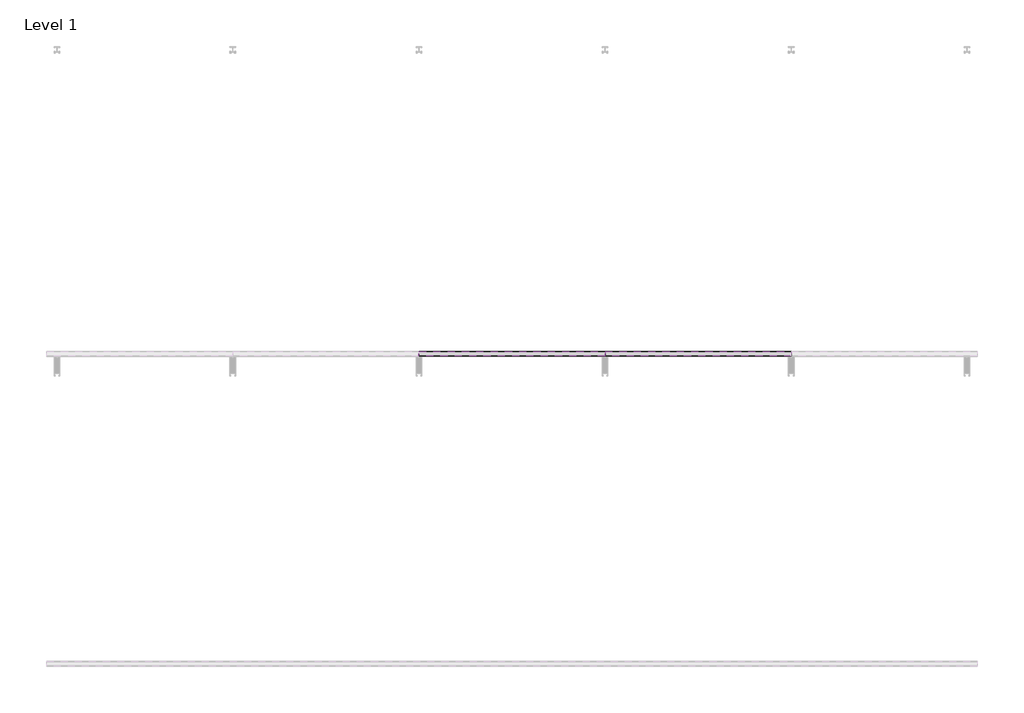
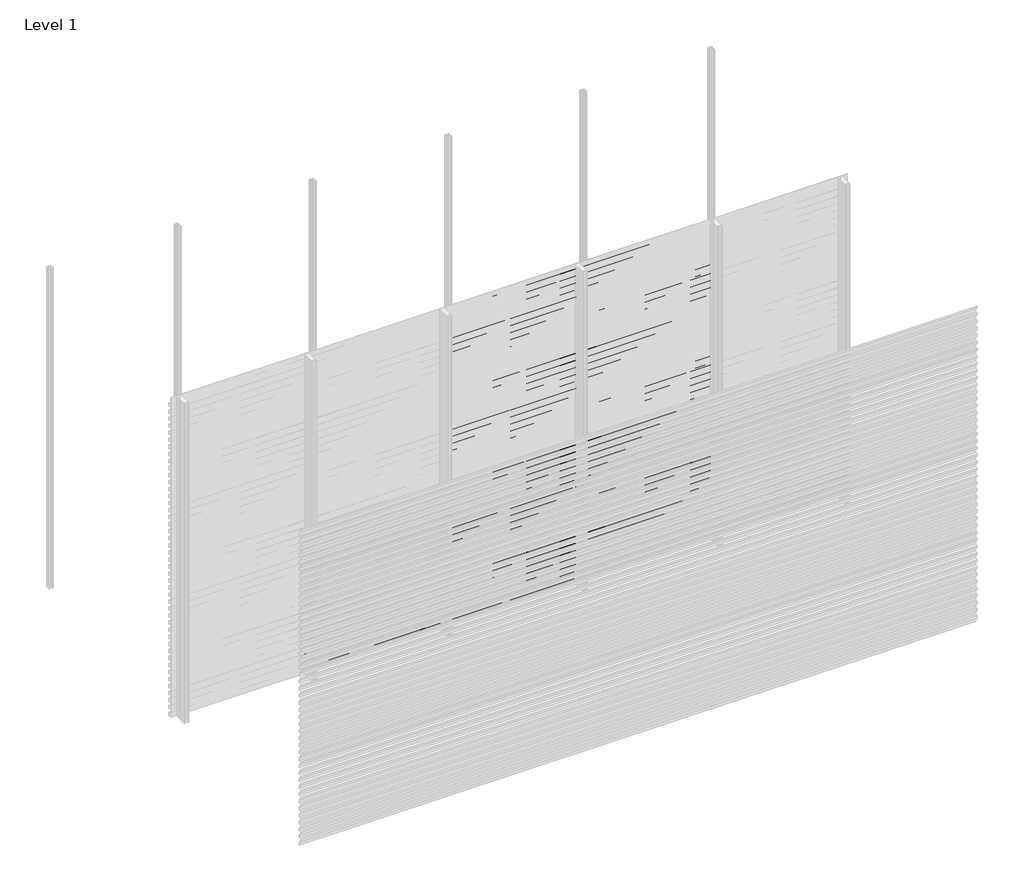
# One storey, part 8 of 33: 88 proxies.
"""IFC4 building model written with IfcOpenShell, lengths in millimetres."""

import ifcopenshell
import ifcopenshell.guid

model = None  # the IFC model being written
_history = None  # IfcOwnerHistory: only IFC2X3 demands one
_inside = {}  # id of a spatial element -> (the spatial element, [elements in it])
_under = {}  # id of a project, library or spatial element -> (it, [spatial elements below it])
_declared = {}  # id of a project -> (the project, [libraries it declares])
_typed = {}  # id of a type object -> (the type object, [elements of that type])
_made_of = {}  # id of a material, layer set ... -> (it, [elements and type objects made of it])


def new_model(schema):
    """Start an empty IFC model of exactly this schema.

    Asked for "IFC4X3", IfcOpenShell would pick the latest addendum, in which some entities
    have other attributes; the version numbers below select the first issue.
    IFC2X3 requires an IfcOwnerHistory on every rooted entity: one is made here for all.
    """
    global model, _history
    if schema == "IFC4X3":
        model = ifcopenshell.file(schema_version=(4, 3, 0, 0))
    else:
        model = ifcopenshell.file(schema=schema)
    _inside.clear()
    _under.clear()
    _declared.clear()
    _typed.clear()
    _made_of.clear()
    _history = None
    if model.schema == "IFC2X3":
        org = make("IfcOrganization", Name="unknown")
        user = make(
            "IfcPersonAndOrganization",
            ThePerson=make("IfcPerson", FamilyName="unknown"),
            TheOrganization=org,
        )
        app = make(
            "IfcApplication",
            ApplicationDeveloper=org,
            Version="unknown",
            ApplicationFullName="unknown",
            ApplicationIdentifier="unknown",
        )
        _history = make(
            "IfcOwnerHistory",
            OwningUser=user,
            OwningApplication=app,
            ChangeAction="ADDED",
            CreationDate=0,
        )
    return model


def make(cls, **values):
    """One entity of the class cls with the attributes given. An attribute that is None is left unset."""
    return model.create_entity(
        cls, **{name: value for name, value in values.items() if value is not None}
    )


def rooted(cls, **values):
    """An entity with a GlobalId (a new one), such as an element, a storey or a relation."""
    return make(cls, GlobalId=ifcopenshell.guid.new(), OwnerHistory=_history, **values)


def si_unit(unit_type, name, prefix=None):
    """IfcSIUnit, for example si_unit("LENGTHUNIT", "METRE", prefix="MILLI")."""
    return make("IfcSIUnit", UnitType=unit_type, Prefix=prefix, Name=name)


def assignment(units):
    """IfcUnitAssignment: the units of a project."""
    return None if units is None else make("IfcUnitAssignment", Units=units)


def point(xyz):
    """IfcCartesianPoint."""
    return None if xyz is None else make("IfcCartesianPoint", Coordinates=xyz)


def direction(xyz):
    """IfcDirection."""
    return None if xyz is None else make("IfcDirection", DirectionRatios=xyz)


def frame(location, z_axis=None, x_axis=None):
    """IfcAxis2Placement3D, a coordinate frame: its origin and axes. An axis left out is left unset."""
    return make(
        "IfcAxis2Placement3D",
        Location=point(location),
        Axis=direction(z_axis),
        RefDirection=direction(x_axis),
    )


def origin():
    """The frame at (0, 0, 0) with its axes left unset."""
    return frame((0.0, 0.0, 0.0))


def place(relative_to, where):
    """IfcLocalPlacement: puts the frame where relative to a parent placement (None: the world)."""
    return make(
        "IfcLocalPlacement", PlacementRelTo=relative_to, RelativePlacement=where
    )


def context(
    kind, dimensions, precision=None, world=None, true_north=None, identifier=None
):
    """IfcGeometricRepresentationContext, for example the 3D "Model" context."""
    return make(
        "IfcGeometricRepresentationContext",
        ContextIdentifier=identifier,
        ContextType=kind,
        CoordinateSpaceDimension=dimensions,
        Precision=precision,
        WorldCoordinateSystem=world,
        TrueNorth=true_north,
    )


def project(units=None, contexts=None):
    """IfcProject with its units and contexts."""
    return rooted(
        "IfcProject",
        Name="project",
        RepresentationContexts=contexts,
        UnitsInContext=assignment(units),
    )


def spatial(cls, under=None, at=None, **own):
    """A site, building, storey or space (cls), placed at a placement, below another one or the project."""
    s = rooted(cls, ObjectPlacement=at, **own)
    if under is not None:
        _under.setdefault(under.id(), (under, []))[1].append(s)
    return s


def polyline(points):
    """IfcPolyline through the points."""
    return make("IfcPolyline", Points=[point(p) for p in points])


def outline(outer, holes=None, kind="AREA"):
    """IfcArbitraryClosedProfileDef: a profile drawn as a closed curve; with holes, ...WithVoids."""
    if holes is None:
        return make("IfcArbitraryClosedProfileDef", ProfileType=kind, OuterCurve=outer)
    return make(
        "IfcArbitraryProfileDefWithVoids",
        ProfileType=kind,
        OuterCurve=outer,
        InnerCurves=holes,
    )


def extrude(swept, where, along, depth):
    """IfcExtrudedAreaSolid: the profile swept, set in the frame where, extruded along a direction by depth."""
    return make(
        "IfcExtrudedAreaSolid",
        SweptArea=swept,
        Position=where,
        ExtrudedDirection=direction(along),
        Depth=depth,
    )


def shape(context_of_items, identifier, shape_type, items):
    """IfcShapeRepresentation: the items that make up one representation, for example the "Body"."""
    return make(
        "IfcShapeRepresentation",
        ContextOfItems=context_of_items,
        RepresentationIdentifier=identifier,
        RepresentationType=shape_type,
        Items=items,
    )


def made_of(thing, what):
    """Note that an element or type object is made of a material, layer set ...; save() writes the relation."""
    if what is not None:
        _made_of.setdefault(what.id(), (what, []))[1].append(thing)
    return thing


def element(
    cls,
    number,
    at=None,
    inside=None,
    cuts=None,
    type_object=None,
    material=None,
    context=None,
    identifier="Body",
    shape_type=None,
    held_by="IfcProductDefinitionShape",
    body=None,
    shapes=None,
    **own,
):
    """One element of the class cls, such as IfcWall. Its Tag is "e" and its number.

    at: its placement. inside: the storey or other place that contains it. cuts: it is an
    opening in that element (IfcRelVoidsElement). A single representation is given by context,
    identifier, shape_type and body (its items); several are given by shapes. held_by: the class
    of the entity that holds the representations. save() writes the other relations.
    """
    e = rooted(cls, Tag="e%d" % number, ObjectPlacement=at, **own)
    if body is not None:
        shapes = [shape(context, identifier, shape_type, body)]
    if shapes is not None:
        e.Representation = make(held_by, Representations=shapes)
    if inside is not None:
        _inside.setdefault(inside.id(), (inside, []))[1].append(e)
    if cuts is not None:
        rooted(
            "IfcRelVoidsElement", RelatingBuildingElement=cuts, RelatedOpeningElement=e
        )
    if type_object is not None:
        _typed.setdefault(type_object.id(), (type_object, []))[1].append(e)
    return made_of(e, material)


def aggregate(whole, parts):
    """IfcRelAggregates: a whole, such as a stair, and the parts it consists of."""
    return rooted("IfcRelAggregates", RelatingObject=whole, RelatedObjects=parts)


def save(model, path):
    """Write the relations noted so far, then the file.

    IfcRelAggregates (storeys below a building ...), IfcRelContainedInSpatialStructure (elements
    in a storey), IfcRelDefinesByType, IfcRelAssociatesMaterial and IfcRelDeclares: one each for
    every whole, place, type object, material and project.
    """
    for whole, parts in _under.values():
        aggregate(whole, parts)
    for where, things in _inside.values():
        rooted(
            "IfcRelContainedInSpatialStructure",
            RelatedElements=things,
            RelatingStructure=where,
        )
    for kind, things in _typed.values():
        rooted("IfcRelDefinesByType", RelatedObjects=things, RelatingType=kind)
    for what, things in _made_of.values():
        rooted("IfcRelAssociatesMaterial", RelatedObjects=things, RelatingMaterial=what)
    for by, libraries in _declared.values():
        rooted("IfcRelDeclares", RelatingContext=by, RelatedDefinitions=libraries)
    model.write(path)


model = new_model("IFC4")

# Units and contexts
model_context = context("Model", 3, world=origin())
ifc_project = project(units=[si_unit("LENGTHUNIT", "METRE", prefix="MILLI")], contexts=[model_context])

# Site, building, storey
site = spatial("IfcSite", under=ifc_project)
building = spatial("IfcBuilding", under=site)
storey = spatial("IfcBuildingStorey", under=building, Name="Level 1", Elevation=0.0)

# Proxies
placement = place(None, origin())
element("IfcBuildingElementProxy", 1, Name="Wall Sweeps", at=placement, inside=storey, context=model_context, shape_type="SweptSolid", body=[
    extrude(outline(polyline([(-47967.0, 158.0), (-47967.0, 125.0), (-47968.25, 125.7216933), (-47968.25, 157.2872415), (-47998.0, 178.0588647), (-47998.0, 198.0), (-47996.75, 198.0), (-47996.75, 178.7716232), (-47967.0, 158.0)])), frame((1200.0, 0.0, 0.0), z_axis=(1.0, 0.0, 0.0), x_axis=(0.0, 1.0, 0.0)), (0.0, 0.0, 1.0), 1200.0),
])
element("IfcBuildingElementProxy", 2, Name="Wall Sweeps", at=placement, inside=storey, context=model_context, shape_type="SweptSolid", body=[
    extrude(outline(polyline([(-47967.0, 92.0), (-47967.0, 59.0), (-47968.25, 59.7216933), (-47968.25, 91.2872415), (-47998.0, 112.0588647), (-47998.0, 132.0), (-47996.75, 132.0), (-47996.75, 112.7716232), (-47967.0, 92.0)])), frame((1200.0, 0.0, 0.0), z_axis=(1.0, 0.0, 0.0), x_axis=(0.0, 1.0, 0.0)), (0.0, 0.0, 1.0), 1200.0),
])
element("IfcBuildingElementProxy", 3, Name="Wall Sweeps", at=placement, inside=storey, context=model_context, shape_type="SweptSolid", body=[
    extrude(outline(polyline([(-47967.0, 26.0), (-47967.0, -7.0), (-47968.25, -6.2783067), (-47968.25, 25.2872415), (-47998.0, 46.0588647), (-47998.0, 66.0), (-47996.75, 66.0), (-47996.75, 46.7716232), (-47967.0, 26.0)])), frame((1200.0, 0.0, 0.0), z_axis=(1.0, 0.0, 0.0), x_axis=(0.0, 1.0, 0.0)), (0.0, 0.0, 1.0), 1200.0),
])
element("IfcBuildingElementProxy", 4, Name="Wall Sweeps", at=placement, inside=storey, context=model_context, shape_type="SweptSolid", body=[
    extrude(outline(polyline([(-47967.0, 2930.0), (-47967.0, 2897.0), (-47968.25, 2897.7216933), (-47968.25, 2929.2872415), (-47998.0, 2950.0588647), (-47998.0, 2970.0), (-47996.75, 2970.0), (-47996.75, 2950.7716232), (-47967.0, 2930.0)])), frame((2400.0, 0.0, 0.0), z_axis=(1.0, 0.0, 0.0), x_axis=(0.0, 1.0, 0.0)), (0.0, 0.0, 1.0), 1200.0),
])
element("IfcBuildingElementProxy", 5, Name="Wall Sweeps", at=placement, inside=storey, context=model_context, shape_type="SweptSolid", body=[
    extrude(outline(polyline([(-47967.0, 2864.0), (-47967.0, 2831.0), (-47968.25, 2831.7216933), (-47968.25, 2863.2872415), (-47998.0, 2884.0588647), (-47998.0, 2904.0), (-47996.75, 2904.0), (-47996.75, 2884.7716232), (-47967.0, 2864.0)])), frame((2400.0, 0.0, 0.0), z_axis=(1.0, 0.0, 0.0), x_axis=(0.0, 1.0, 0.0)), (0.0, 0.0, 1.0), 1200.0),
])
element("IfcBuildingElementProxy", 6, Name="Wall Sweeps", at=placement, inside=storey, context=model_context, shape_type="SweptSolid", body=[
    extrude(outline(polyline([(-47967.0, 2798.0), (-47967.0, 2765.0), (-47968.25, 2765.7216933), (-47968.25, 2797.2872415), (-47998.0, 2818.0588647), (-47998.0, 2838.0), (-47996.75, 2838.0), (-47996.75, 2818.7716232), (-47967.0, 2798.0)])), frame((2400.0, 0.0, 0.0), z_axis=(1.0, 0.0, 0.0), x_axis=(0.0, 1.0, 0.0)), (0.0, 0.0, 1.0), 1200.0),
])
element("IfcBuildingElementProxy", 7, Name="Wall Sweeps", at=placement, inside=storey, context=model_context, shape_type="SweptSolid", body=[
    extrude(outline(polyline([(-47967.0, 2732.0), (-47967.0, 2699.0), (-47968.25, 2699.7216933), (-47968.25, 2731.2872415), (-47998.0, 2752.0588647), (-47998.0, 2772.0), (-47996.75, 2772.0), (-47996.75, 2752.7716232), (-47967.0, 2732.0)])), frame((2400.0, 0.0, 0.0), z_axis=(1.0, 0.0, 0.0), x_axis=(0.0, 1.0, 0.0)), (0.0, 0.0, 1.0), 1200.0),
])
element("IfcBuildingElementProxy", 8, Name="Wall Sweeps", at=placement, inside=storey, context=model_context, shape_type="SweptSolid", body=[
    extrude(outline(polyline([(-47967.0, 2666.0), (-47967.0, 2633.0), (-47968.25, 2633.7216933), (-47968.25, 2665.2872415), (-47998.0, 2686.0588647), (-47998.0, 2706.0), (-47996.75, 2706.0), (-47996.75, 2686.7716232), (-47967.0, 2666.0)])), frame((2400.0, 0.0, 0.0), z_axis=(1.0, 0.0, 0.0), x_axis=(0.0, 1.0, 0.0)), (0.0, 0.0, 1.0), 1200.0),
])
element("IfcBuildingElementProxy", 9, Name="Wall Sweeps", at=placement, inside=storey, context=model_context, shape_type="SweptSolid", body=[
    extrude(outline(polyline([(-47967.0, 2600.0), (-47967.0, 2567.0), (-47968.25, 2567.7216933), (-47968.25, 2599.2872415), (-47998.0, 2620.0588647), (-47998.0, 2640.0), (-47996.75, 2640.0), (-47996.75, 2620.7716232), (-47967.0, 2600.0)])), frame((2400.0, 0.0, 0.0), z_axis=(1.0, 0.0, 0.0), x_axis=(0.0, 1.0, 0.0)), (0.0, 0.0, 1.0), 1200.0),
])
element("IfcBuildingElementProxy", 10, Name="Wall Sweeps", at=placement, inside=storey, context=model_context, shape_type="SweptSolid", body=[
    extrude(outline(polyline([(-47967.0, 2534.0), (-47967.0, 2501.0), (-47968.25, 2501.7216933), (-47968.25, 2533.2872415), (-47998.0, 2554.0588647), (-47998.0, 2574.0), (-47996.75, 2574.0), (-47996.75, 2554.7716232), (-47967.0, 2534.0)])), frame((2400.0, 0.0, 0.0), z_axis=(1.0, 0.0, 0.0), x_axis=(0.0, 1.0, 0.0)), (0.0, 0.0, 1.0), 1200.0),
])
element("IfcBuildingElementProxy", 11, Name="Wall Sweeps", at=placement, inside=storey, context=model_context, shape_type="SweptSolid", body=[
    extrude(outline(polyline([(-47967.0, 2468.0), (-47967.0, 2435.0), (-47968.25, 2435.7216933), (-47968.25, 2467.2872415), (-47998.0, 2488.0588647), (-47998.0, 2508.0), (-47996.75, 2508.0), (-47996.75, 2488.7716232), (-47967.0, 2468.0)])), frame((2400.0, 0.0, 0.0), z_axis=(1.0, 0.0, 0.0), x_axis=(0.0, 1.0, 0.0)), (0.0, 0.0, 1.0), 1200.0),
])
element("IfcBuildingElementProxy", 12, Name="Wall Sweeps", at=placement, inside=storey, context=model_context, shape_type="SweptSolid", body=[
    extrude(outline(polyline([(-47967.0, 2402.0), (-47967.0, 2369.0), (-47968.25, 2369.7216933), (-47968.25, 2401.2872415), (-47998.0, 2422.0588647), (-47998.0, 2442.0), (-47996.75, 2442.0), (-47996.75, 2422.7716232), (-47967.0, 2402.0)])), frame((2400.0, 0.0, 0.0), z_axis=(1.0, 0.0, 0.0), x_axis=(0.0, 1.0, 0.0)), (0.0, 0.0, 1.0), 1200.0),
])
element("IfcBuildingElementProxy", 13, Name="Wall Sweeps", at=placement, inside=storey, context=model_context, shape_type="SweptSolid", body=[
    extrude(outline(polyline([(-47967.0, 2336.0), (-47967.0, 2303.0), (-47968.25, 2303.7216933), (-47968.25, 2335.2872415), (-47998.0, 2356.0588647), (-47998.0, 2376.0), (-47996.75, 2376.0), (-47996.75, 2356.7716232), (-47967.0, 2336.0)])), frame((2400.0, 0.0, 0.0), z_axis=(1.0, 0.0, 0.0), x_axis=(0.0, 1.0, 0.0)), (0.0, 0.0, 1.0), 1200.0),
])
element("IfcBuildingElementProxy", 14, Name="Wall Sweeps", at=placement, inside=storey, context=model_context, shape_type="SweptSolid", body=[
    extrude(outline(polyline([(-47967.0, 2270.0), (-47967.0, 2237.0), (-47968.25, 2237.7216933), (-47968.25, 2269.2872415), (-47998.0, 2290.0588647), (-47998.0, 2310.0), (-47996.75, 2310.0), (-47996.75, 2290.7716232), (-47967.0, 2270.0)])), frame((2400.0, 0.0, 0.0), z_axis=(1.0, 0.0, 0.0), x_axis=(0.0, 1.0, 0.0)), (0.0, 0.0, 1.0), 1200.0),
])
element("IfcBuildingElementProxy", 15, Name="Wall Sweeps", at=placement, inside=storey, context=model_context, shape_type="SweptSolid", body=[
    extrude(outline(polyline([(-47967.0, 2204.0), (-47967.0, 2171.0), (-47968.25, 2171.7216933), (-47968.25, 2203.2872415), (-47998.0, 2224.0588647), (-47998.0, 2244.0), (-47996.75, 2244.0), (-47996.75, 2224.7716232), (-47967.0, 2204.0)])), frame((2400.0, 0.0, 0.0), z_axis=(1.0, 0.0, 0.0), x_axis=(0.0, 1.0, 0.0)), (0.0, 0.0, 1.0), 1200.0),
])
element("IfcBuildingElementProxy", 16, Name="Wall Sweeps", at=placement, inside=storey, context=model_context, shape_type="SweptSolid", body=[
    extrude(outline(polyline([(-47967.0, 2138.0), (-47967.0, 2105.0), (-47968.25, 2105.7216933), (-47968.25, 2137.2872415), (-47998.0, 2158.0588647), (-47998.0, 2178.0), (-47996.75, 2178.0), (-47996.75, 2158.7716232), (-47967.0, 2138.0)])), frame((2400.0, 0.0, 0.0), z_axis=(1.0, 0.0, 0.0), x_axis=(0.0, 1.0, 0.0)), (0.0, 0.0, 1.0), 1200.0),
])
element("IfcBuildingElementProxy", 17, Name="Wall Sweeps", at=placement, inside=storey, context=model_context, shape_type="SweptSolid", body=[
    extrude(outline(polyline([(-47967.0, 2072.0), (-47967.0, 2039.0), (-47968.25, 2039.7216933), (-47968.25, 2071.2872415), (-47998.0, 2092.0588647), (-47998.0, 2112.0), (-47996.75, 2112.0), (-47996.75, 2092.7716232), (-47967.0, 2072.0)])), frame((2400.0, 0.0, 0.0), z_axis=(1.0, 0.0, 0.0), x_axis=(0.0, 1.0, 0.0)), (0.0, 0.0, 1.0), 1200.0),
])
element("IfcBuildingElementProxy", 18, Name="Wall Sweeps", at=placement, inside=storey, context=model_context, shape_type="SweptSolid", body=[
    extrude(outline(polyline([(-47967.0, 2006.0), (-47967.0, 1973.0), (-47968.25, 1973.7216933), (-47968.25, 2005.2872415), (-47998.0, 2026.0588647), (-47998.0, 2046.0), (-47996.75, 2046.0), (-47996.75, 2026.7716232), (-47967.0, 2006.0)])), frame((2400.0, 0.0, 0.0), z_axis=(1.0, 0.0, 0.0), x_axis=(0.0, 1.0, 0.0)), (0.0, 0.0, 1.0), 1200.0),
])
element("IfcBuildingElementProxy", 19, Name="Wall Sweeps", at=placement, inside=storey, context=model_context, shape_type="SweptSolid", body=[
    extrude(outline(polyline([(-47967.0, 1940.0), (-47967.0, 1907.0), (-47968.25, 1907.7216933), (-47968.25, 1939.2872415), (-47998.0, 1960.0588647), (-47998.0, 1980.0), (-47996.75, 1980.0), (-47996.75, 1960.7716232), (-47967.0, 1940.0)])), frame((2400.0, 0.0, 0.0), z_axis=(1.0, 0.0, 0.0), x_axis=(0.0, 1.0, 0.0)), (0.0, 0.0, 1.0), 1200.0),
])
element("IfcBuildingElementProxy", 20, Name="Wall Sweeps", at=placement, inside=storey, context=model_context, shape_type="SweptSolid", body=[
    extrude(outline(polyline([(-47967.0, 1874.0), (-47967.0, 1841.0), (-47968.25, 1841.7216933), (-47968.25, 1873.2872415), (-47998.0, 1894.0588647), (-47998.0, 1914.0), (-47996.75, 1914.0), (-47996.75, 1894.7716232), (-47967.0, 1874.0)])), frame((2400.0, 0.0, 0.0), z_axis=(1.0, 0.0, 0.0), x_axis=(0.0, 1.0, 0.0)), (0.0, 0.0, 1.0), 1200.0),
])
element("IfcBuildingElementProxy", 21, Name="Wall Sweeps", at=placement, inside=storey, context=model_context, shape_type="SweptSolid", body=[
    extrude(outline(polyline([(-47967.0, 1808.0), (-47967.0, 1775.0), (-47968.25, 1775.7216933), (-47968.25, 1807.2872415), (-47998.0, 1828.0588647), (-47998.0, 1848.0), (-47996.75, 1848.0), (-47996.75, 1828.7716232), (-47967.0, 1808.0)])), frame((2400.0, 0.0, 0.0), z_axis=(1.0, 0.0, 0.0), x_axis=(0.0, 1.0, 0.0)), (0.0, 0.0, 1.0), 1200.0),
])
element("IfcBuildingElementProxy", 22, Name="Wall Sweeps", at=placement, inside=storey, context=model_context, shape_type="SweptSolid", body=[
    extrude(outline(polyline([(-47967.0, 1742.0), (-47967.0, 1709.0), (-47968.25, 1709.7216933), (-47968.25, 1741.2872415), (-47998.0, 1762.0588647), (-47998.0, 1782.0), (-47996.75, 1782.0), (-47996.75, 1762.7716232), (-47967.0, 1742.0)])), frame((2400.0, 0.0, 0.0), z_axis=(1.0, 0.0, 0.0), x_axis=(0.0, 1.0, 0.0)), (0.0, 0.0, 1.0), 1200.0),
])
element("IfcBuildingElementProxy", 23, Name="Wall Sweeps", at=placement, inside=storey, context=model_context, shape_type="SweptSolid", body=[
    extrude(outline(polyline([(-47967.0, 1676.0), (-47967.0, 1643.0), (-47968.25, 1643.7216933), (-47968.25, 1675.2872415), (-47998.0, 1696.0588647), (-47998.0, 1716.0), (-47996.75, 1716.0), (-47996.75, 1696.7716232), (-47967.0, 1676.0)])), frame((2400.0, 0.0, 0.0), z_axis=(1.0, 0.0, 0.0), x_axis=(0.0, 1.0, 0.0)), (0.0, 0.0, 1.0), 1200.0),
])
element("IfcBuildingElementProxy", 24, Name="Wall Sweeps", at=placement, inside=storey, context=model_context, shape_type="SweptSolid", body=[
    extrude(outline(polyline([(-47967.0, 1610.0), (-47967.0, 1577.0), (-47968.25, 1577.7216933), (-47968.25, 1609.2872415), (-47998.0, 1630.0588647), (-47998.0, 1650.0), (-47996.75, 1650.0), (-47996.75, 1630.7716232), (-47967.0, 1610.0)])), frame((2400.0, 0.0, 0.0), z_axis=(1.0, 0.0, 0.0), x_axis=(0.0, 1.0, 0.0)), (0.0, 0.0, 1.0), 1200.0),
])
element("IfcBuildingElementProxy", 25, Name="Wall Sweeps", at=placement, inside=storey, context=model_context, shape_type="SweptSolid", body=[
    extrude(outline(polyline([(-47967.0, 1544.0), (-47967.0, 1511.0), (-47968.25, 1511.7216933), (-47968.25, 1543.2872415), (-47998.0, 1564.0588647), (-47998.0, 1584.0), (-47996.75, 1584.0), (-47996.75, 1564.7716232), (-47967.0, 1544.0)])), frame((2400.0, 0.0, 0.0), z_axis=(1.0, 0.0, 0.0), x_axis=(0.0, 1.0, 0.0)), (0.0, 0.0, 1.0), 1200.0),
])
element("IfcBuildingElementProxy", 26, Name="Wall Sweeps", at=placement, inside=storey, context=model_context, shape_type="SweptSolid", body=[
    extrude(outline(polyline([(-47967.0, 1478.0), (-47967.0, 1445.0), (-47968.25, 1445.7216933), (-47968.25, 1477.2872415), (-47998.0, 1498.0588647), (-47998.0, 1518.0), (-47996.75, 1518.0), (-47996.75, 1498.7716232), (-47967.0, 1478.0)])), frame((2400.0, 0.0, 0.0), z_axis=(1.0, 0.0, 0.0), x_axis=(0.0, 1.0, 0.0)), (0.0, 0.0, 1.0), 1200.0),
])
element("IfcBuildingElementProxy", 27, Name="Wall Sweeps", at=placement, inside=storey, context=model_context, shape_type="SweptSolid", body=[
    extrude(outline(polyline([(-47967.0, 1412.0), (-47967.0, 1379.0), (-47968.25, 1379.7216933), (-47968.25, 1411.2872415), (-47998.0, 1432.0588647), (-47998.0, 1452.0), (-47996.75, 1452.0), (-47996.75, 1432.7716232), (-47967.0, 1412.0)])), frame((2400.0, 0.0, 0.0), z_axis=(1.0, 0.0, 0.0), x_axis=(0.0, 1.0, 0.0)), (0.0, 0.0, 1.0), 1200.0),
])
element("IfcBuildingElementProxy", 28, Name="Wall Sweeps", at=placement, inside=storey, context=model_context, shape_type="SweptSolid", body=[
    extrude(outline(polyline([(-47967.0, 1346.0), (-47967.0, 1313.0), (-47968.25, 1313.7216933), (-47968.25, 1345.2872415), (-47998.0, 1366.0588647), (-47998.0, 1386.0), (-47996.75, 1386.0), (-47996.75, 1366.7716232), (-47967.0, 1346.0)])), frame((2400.0, 0.0, 0.0), z_axis=(1.0, 0.0, 0.0), x_axis=(0.0, 1.0, 0.0)), (0.0, 0.0, 1.0), 1200.0),
])
element("IfcBuildingElementProxy", 29, Name="Wall Sweeps", at=placement, inside=storey, context=model_context, shape_type="SweptSolid", body=[
    extrude(outline(polyline([(-47967.0, 1280.0), (-47967.0, 1247.0), (-47968.25, 1247.7216933), (-47968.25, 1279.2872415), (-47998.0, 1300.0588647), (-47998.0, 1320.0), (-47996.75, 1320.0), (-47996.75, 1300.7716232), (-47967.0, 1280.0)])), frame((2400.0, 0.0, 0.0), z_axis=(1.0, 0.0, 0.0), x_axis=(0.0, 1.0, 0.0)), (0.0, 0.0, 1.0), 1200.0),
])
element("IfcBuildingElementProxy", 30, Name="Wall Sweeps", at=placement, inside=storey, context=model_context, shape_type="SweptSolid", body=[
    extrude(outline(polyline([(-47967.0, 1214.0), (-47967.0, 1181.0), (-47968.25, 1181.7216933), (-47968.25, 1213.2872415), (-47998.0, 1234.0588647), (-47998.0, 1254.0), (-47996.75, 1254.0), (-47996.75, 1234.7716232), (-47967.0, 1214.0)])), frame((2400.0, 0.0, 0.0), z_axis=(1.0, 0.0, 0.0), x_axis=(0.0, 1.0, 0.0)), (0.0, 0.0, 1.0), 1200.0),
])
element("IfcBuildingElementProxy", 31, Name="Wall Sweeps", at=placement, inside=storey, context=model_context, shape_type="SweptSolid", body=[
    extrude(outline(polyline([(-47967.0, 1148.0), (-47967.0, 1115.0), (-47968.25, 1115.7216933), (-47968.25, 1147.2872415), (-47998.0, 1168.0588647), (-47998.0, 1188.0), (-47996.75, 1188.0), (-47996.75, 1168.7716232), (-47967.0, 1148.0)])), frame((2400.0, 0.0, 0.0), z_axis=(1.0, 0.0, 0.0), x_axis=(0.0, 1.0, 0.0)), (0.0, 0.0, 1.0), 1200.0),
])
element("IfcBuildingElementProxy", 32, Name="Wall Sweeps", at=placement, inside=storey, context=model_context, shape_type="SweptSolid", body=[
    extrude(outline(polyline([(-47967.0, 1082.0), (-47967.0, 1049.0), (-47968.25, 1049.7216933), (-47968.25, 1081.2872415), (-47998.0, 1102.0588647), (-47998.0, 1122.0), (-47996.75, 1122.0), (-47996.75, 1102.7716232), (-47967.0, 1082.0)])), frame((2400.0, 0.0, 0.0), z_axis=(1.0, 0.0, 0.0), x_axis=(0.0, 1.0, 0.0)), (0.0, 0.0, 1.0), 1200.0),
])
element("IfcBuildingElementProxy", 33, Name="Wall Sweeps", at=placement, inside=storey, context=model_context, shape_type="SweptSolid", body=[
    extrude(outline(polyline([(-47967.0, 1016.0), (-47967.0, 983.0), (-47968.25, 983.7216933), (-47968.25, 1015.2872415), (-47998.0, 1036.0588647), (-47998.0, 1056.0), (-47996.75, 1056.0), (-47996.75, 1036.7716232), (-47967.0, 1016.0)])), frame((2400.0, 0.0, 0.0), z_axis=(1.0, 0.0, 0.0), x_axis=(0.0, 1.0, 0.0)), (0.0, 0.0, 1.0), 1200.0),
])
element("IfcBuildingElementProxy", 34, Name="Wall Sweeps", at=placement, inside=storey, context=model_context, shape_type="SweptSolid", body=[
    extrude(outline(polyline([(-47967.0, 950.0), (-47967.0, 917.0), (-47968.25, 917.7216933), (-47968.25, 949.2872415), (-47998.0, 970.0588647), (-47998.0, 990.0), (-47996.75, 990.0), (-47996.75, 970.7716232), (-47967.0, 950.0)])), frame((2400.0, 0.0, 0.0), z_axis=(1.0, 0.0, 0.0), x_axis=(0.0, 1.0, 0.0)), (0.0, 0.0, 1.0), 1200.0),
])
element("IfcBuildingElementProxy", 35, Name="Wall Sweeps", at=placement, inside=storey, context=model_context, shape_type="SweptSolid", body=[
    extrude(outline(polyline([(-47967.0, 884.0), (-47967.0, 851.0), (-47968.25, 851.7216933), (-47968.25, 883.2872415), (-47998.0, 904.0588647), (-47998.0, 924.0), (-47996.75, 924.0), (-47996.75, 904.7716232), (-47967.0, 884.0)])), frame((2400.0, 0.0, 0.0), z_axis=(1.0, 0.0, 0.0), x_axis=(0.0, 1.0, 0.0)), (0.0, 0.0, 1.0), 1200.0),
])
element("IfcBuildingElementProxy", 36, Name="Wall Sweeps", at=placement, inside=storey, context=model_context, shape_type="SweptSolid", body=[
    extrude(outline(polyline([(-47967.0, 818.0), (-47967.0, 785.0), (-47968.25, 785.7216933), (-47968.25, 817.2872415), (-47998.0, 838.0588647), (-47998.0, 858.0), (-47996.75, 858.0), (-47996.75, 838.7716232), (-47967.0, 818.0)])), frame((2400.0, 0.0, 0.0), z_axis=(1.0, 0.0, 0.0), x_axis=(0.0, 1.0, 0.0)), (0.0, 0.0, 1.0), 1200.0),
])
element("IfcBuildingElementProxy", 37, Name="Wall Sweeps", at=placement, inside=storey, context=model_context, shape_type="SweptSolid", body=[
    extrude(outline(polyline([(-47967.0, 752.0), (-47967.0, 719.0), (-47968.25, 719.7216933), (-47968.25, 751.2872415), (-47998.0, 772.0588647), (-47998.0, 792.0), (-47996.75, 792.0), (-47996.75, 772.7716232), (-47967.0, 752.0)])), frame((2400.0, 0.0, 0.0), z_axis=(1.0, 0.0, 0.0), x_axis=(0.0, 1.0, 0.0)), (0.0, 0.0, 1.0), 1200.0),
])
element("IfcBuildingElementProxy", 38, Name="Wall Sweeps", at=placement, inside=storey, context=model_context, shape_type="SweptSolid", body=[
    extrude(outline(polyline([(-47967.0, 686.0), (-47967.0, 653.0), (-47968.25, 653.7216933), (-47968.25, 685.2872415), (-47998.0, 706.0588647), (-47998.0, 726.0), (-47996.75, 726.0), (-47996.75, 706.7716232), (-47967.0, 686.0)])), frame((2400.0, 0.0, 0.0), z_axis=(1.0, 0.0, 0.0), x_axis=(0.0, 1.0, 0.0)), (0.0, 0.0, 1.0), 1200.0),
])
element("IfcBuildingElementProxy", 39, Name="Wall Sweeps", at=placement, inside=storey, context=model_context, shape_type="SweptSolid", body=[
    extrude(outline(polyline([(-47967.0, 620.0), (-47967.0, 587.0), (-47968.25, 587.7216933), (-47968.25, 619.2872415), (-47998.0, 640.0588647), (-47998.0, 660.0), (-47996.75, 660.0), (-47996.75, 640.7716232), (-47967.0, 620.0)])), frame((2400.0, 0.0, 0.0), z_axis=(1.0, 0.0, 0.0), x_axis=(0.0, 1.0, 0.0)), (0.0, 0.0, 1.0), 1200.0),
])
element("IfcBuildingElementProxy", 40, Name="Wall Sweeps", at=placement, inside=storey, context=model_context, shape_type="SweptSolid", body=[
    extrude(outline(polyline([(-47967.0, 554.0), (-47967.0, 521.0), (-47968.25, 521.7216933), (-47968.25, 553.2872415), (-47998.0, 574.0588647), (-47998.0, 594.0), (-47996.75, 594.0), (-47996.75, 574.7716232), (-47967.0, 554.0)])), frame((2400.0, 0.0, 0.0), z_axis=(1.0, 0.0, 0.0), x_axis=(0.0, 1.0, 0.0)), (0.0, 0.0, 1.0), 1200.0),
])
element("IfcBuildingElementProxy", 41, Name="Wall Sweeps", at=placement, inside=storey, context=model_context, shape_type="SweptSolid", body=[
    extrude(outline(polyline([(-47967.0, 488.0), (-47967.0, 455.0), (-47968.25, 455.7216933), (-47968.25, 487.2872415), (-47998.0, 508.0588647), (-47998.0, 528.0), (-47996.75, 528.0), (-47996.75, 508.7716232), (-47967.0, 488.0)])), frame((2400.0, 0.0, 0.0), z_axis=(1.0, 0.0, 0.0), x_axis=(0.0, 1.0, 0.0)), (0.0, 0.0, 1.0), 1200.0),
])
element("IfcBuildingElementProxy", 42, Name="Wall Sweeps", at=placement, inside=storey, context=model_context, shape_type="SweptSolid", body=[
    extrude(outline(polyline([(-47967.0, 422.0), (-47967.0, 389.0), (-47968.25, 389.7216933), (-47968.25, 421.2872415), (-47998.0, 442.0588647), (-47998.0, 462.0), (-47996.75, 462.0), (-47996.75, 442.7716232), (-47967.0, 422.0)])), frame((2400.0, 0.0, 0.0), z_axis=(1.0, 0.0, 0.0), x_axis=(0.0, 1.0, 0.0)), (0.0, 0.0, 1.0), 1200.0),
])
element("IfcBuildingElementProxy", 43, Name="Wall Sweeps", at=placement, inside=storey, context=model_context, shape_type="SweptSolid", body=[
    extrude(outline(polyline([(-47967.0, 356.0), (-47967.0, 323.0), (-47968.25, 323.7216933), (-47968.25, 355.2872415), (-47998.0, 376.0588647), (-47998.0, 396.0), (-47996.75, 396.0), (-47996.75, 376.7716232), (-47967.0, 356.0)])), frame((2400.0, 0.0, 0.0), z_axis=(1.0, 0.0, 0.0), x_axis=(0.0, 1.0, 0.0)), (0.0, 0.0, 1.0), 1200.0),
])
element("IfcBuildingElementProxy", 44, Name="Wall Sweeps", at=placement, inside=storey, context=model_context, shape_type="SweptSolid", body=[
    extrude(outline(polyline([(-47967.0, 290.0), (-47967.0, 257.0), (-47968.25, 257.7216933), (-47968.25, 289.2872415), (-47998.0, 310.0588647), (-47998.0, 330.0), (-47996.75, 330.0), (-47996.75, 310.7716232), (-47967.0, 290.0)])), frame((2400.0, 0.0, 0.0), z_axis=(1.0, 0.0, 0.0), x_axis=(0.0, 1.0, 0.0)), (0.0, 0.0, 1.0), 1200.0),
])
element("IfcBuildingElementProxy", 45, Name="Wall Sweeps", at=placement, inside=storey, context=model_context, shape_type="SweptSolid", body=[
    extrude(outline(polyline([(-47967.0, 224.0), (-47967.0, 191.0), (-47968.25, 191.7216933), (-47968.25, 223.2872415), (-47998.0, 244.0588647), (-47998.0, 264.0), (-47996.75, 264.0), (-47996.75, 244.7716232), (-47967.0, 224.0)])), frame((2400.0, 0.0, 0.0), z_axis=(1.0, 0.0, 0.0), x_axis=(0.0, 1.0, 0.0)), (0.0, 0.0, 1.0), 1200.0),
])
element("IfcBuildingElementProxy", 46, Name="Wall Sweeps", at=placement, inside=storey, context=model_context, shape_type="SweptSolid", body=[
    extrude(outline(polyline([(-47967.0, 158.0), (-47967.0, 125.0), (-47968.25, 125.7216933), (-47968.25, 157.2872415), (-47998.0, 178.0588647), (-47998.0, 198.0), (-47996.75, 198.0), (-47996.75, 178.7716232), (-47967.0, 158.0)])), frame((2400.0, 0.0, 0.0), z_axis=(1.0, 0.0, 0.0), x_axis=(0.0, 1.0, 0.0)), (0.0, 0.0, 1.0), 1200.0),
])
element("IfcBuildingElementProxy", 47, Name="Wall Sweeps", at=placement, inside=storey, context=model_context, shape_type="SweptSolid", body=[
    extrude(outline(polyline([(-47967.0, 92.0), (-47967.0, 59.0), (-47968.25, 59.7216933), (-47968.25, 91.2872415), (-47998.0, 112.0588647), (-47998.0, 132.0), (-47996.75, 132.0), (-47996.75, 112.7716232), (-47967.0, 92.0)])), frame((2400.0, 0.0, 0.0), z_axis=(1.0, 0.0, 0.0), x_axis=(0.0, 1.0, 0.0)), (0.0, 0.0, 1.0), 1200.0),
])
element("IfcBuildingElementProxy", 48, Name="Wall Sweeps", at=placement, inside=storey, context=model_context, shape_type="SweptSolid", body=[
    extrude(outline(polyline([(-47967.0, 26.0), (-47967.0, -7.0), (-47968.25, -6.2783067), (-47968.25, 25.2872415), (-47998.0, 46.0588647), (-47998.0, 66.0), (-47996.75, 66.0), (-47996.75, 46.7716232), (-47967.0, 26.0)])), frame((2400.0, 0.0, 0.0), z_axis=(1.0, 0.0, 0.0), x_axis=(0.0, 1.0, 0.0)), (0.0, 0.0, 1.0), 1200.0),
])
element("IfcBuildingElementProxy", 49, Name="Wall Sweeps", at=placement, inside=storey, context=model_context, shape_type="SweptSolid", body=[
    extrude(outline(polyline([(-47967.0, 2930.0), (-47967.0, 2897.0), (-47968.25, 2897.7216933), (-47968.25, 2929.2872415), (-47998.0, 2950.0588647), (-47998.0, 2970.0), (-47996.75, 2970.0), (-47996.75, 2950.7716232), (-47967.0, 2930.0)])), frame((3600.0, 0.0, 0.0), z_axis=(1.0, 0.0, 0.0), x_axis=(0.0, 1.0, 0.0)), (0.0, 0.0, 1.0), 1200.0),
])
element("IfcBuildingElementProxy", 50, Name="Wall Sweeps", at=placement, inside=storey, context=model_context, shape_type="SweptSolid", body=[
    extrude(outline(polyline([(-47967.0, 2864.0), (-47967.0, 2831.0), (-47968.25, 2831.7216933), (-47968.25, 2863.2872415), (-47998.0, 2884.0588647), (-47998.0, 2904.0), (-47996.75, 2904.0), (-47996.75, 2884.7716232), (-47967.0, 2864.0)])), frame((3600.0, 0.0, 0.0), z_axis=(1.0, 0.0, 0.0), x_axis=(0.0, 1.0, 0.0)), (0.0, 0.0, 1.0), 1200.0),
])
element("IfcBuildingElementProxy", 51, Name="Wall Sweeps", at=placement, inside=storey, context=model_context, shape_type="SweptSolid", body=[
    extrude(outline(polyline([(-47967.0, 2798.0), (-47967.0, 2765.0), (-47968.25, 2765.7216933), (-47968.25, 2797.2872415), (-47998.0, 2818.0588647), (-47998.0, 2838.0), (-47996.75, 2838.0), (-47996.75, 2818.7716232), (-47967.0, 2798.0)])), frame((3600.0, 0.0, 0.0), z_axis=(1.0, 0.0, 0.0), x_axis=(0.0, 1.0, 0.0)), (0.0, 0.0, 1.0), 1200.0),
])
element("IfcBuildingElementProxy", 52, Name="Wall Sweeps", at=placement, inside=storey, context=model_context, shape_type="SweptSolid", body=[
    extrude(outline(polyline([(-47967.0, 2732.0), (-47967.0, 2699.0), (-47968.25, 2699.7216933), (-47968.25, 2731.2872415), (-47998.0, 2752.0588647), (-47998.0, 2772.0), (-47996.75, 2772.0), (-47996.75, 2752.7716232), (-47967.0, 2732.0)])), frame((3600.0, 0.0, 0.0), z_axis=(1.0, 0.0, 0.0), x_axis=(0.0, 1.0, 0.0)), (0.0, 0.0, 1.0), 1200.0),
])
element("IfcBuildingElementProxy", 53, Name="Wall Sweeps", at=placement, inside=storey, context=model_context, shape_type="SweptSolid", body=[
    extrude(outline(polyline([(-47967.0, 2666.0), (-47967.0, 2633.0), (-47968.25, 2633.7216933), (-47968.25, 2665.2872415), (-47998.0, 2686.0588647), (-47998.0, 2706.0), (-47996.75, 2706.0), (-47996.75, 2686.7716232), (-47967.0, 2666.0)])), frame((3600.0, 0.0, 0.0), z_axis=(1.0, 0.0, 0.0), x_axis=(0.0, 1.0, 0.0)), (0.0, 0.0, 1.0), 1200.0),
])
element("IfcBuildingElementProxy", 54, Name="Wall Sweeps", at=placement, inside=storey, context=model_context, shape_type="SweptSolid", body=[
    extrude(outline(polyline([(-47967.0, 2600.0), (-47967.0, 2567.0), (-47968.25, 2567.7216933), (-47968.25, 2599.2872415), (-47998.0, 2620.0588647), (-47998.0, 2640.0), (-47996.75, 2640.0), (-47996.75, 2620.7716232), (-47967.0, 2600.0)])), frame((3600.0, 0.0, 0.0), z_axis=(1.0, 0.0, 0.0), x_axis=(0.0, 1.0, 0.0)), (0.0, 0.0, 1.0), 1200.0),
])
element("IfcBuildingElementProxy", 55, Name="Wall Sweeps", at=placement, inside=storey, context=model_context, shape_type="SweptSolid", body=[
    extrude(outline(polyline([(-47967.0, 2534.0), (-47967.0, 2501.0), (-47968.25, 2501.7216933), (-47968.25, 2533.2872415), (-47998.0, 2554.0588647), (-47998.0, 2574.0), (-47996.75, 2574.0), (-47996.75, 2554.7716232), (-47967.0, 2534.0)])), frame((3600.0, 0.0, 0.0), z_axis=(1.0, 0.0, 0.0), x_axis=(0.0, 1.0, 0.0)), (0.0, 0.0, 1.0), 1200.0),
])
element("IfcBuildingElementProxy", 56, Name="Wall Sweeps", at=placement, inside=storey, context=model_context, shape_type="SweptSolid", body=[
    extrude(outline(polyline([(-47967.0, 2468.0), (-47967.0, 2435.0), (-47968.25, 2435.7216933), (-47968.25, 2467.2872415), (-47998.0, 2488.0588647), (-47998.0, 2508.0), (-47996.75, 2508.0), (-47996.75, 2488.7716232), (-47967.0, 2468.0)])), frame((3600.0, 0.0, 0.0), z_axis=(1.0, 0.0, 0.0), x_axis=(0.0, 1.0, 0.0)), (0.0, 0.0, 1.0), 1200.0),
])
element("IfcBuildingElementProxy", 57, Name="Wall Sweeps", at=placement, inside=storey, context=model_context, shape_type="SweptSolid", body=[
    extrude(outline(polyline([(-47967.0, 2402.0), (-47967.0, 2369.0), (-47968.25, 2369.7216933), (-47968.25, 2401.2872415), (-47998.0, 2422.0588647), (-47998.0, 2442.0), (-47996.75, 2442.0), (-47996.75, 2422.7716232), (-47967.0, 2402.0)])), frame((3600.0, 0.0, 0.0), z_axis=(1.0, 0.0, 0.0), x_axis=(0.0, 1.0, 0.0)), (0.0, 0.0, 1.0), 1200.0),
])
element("IfcBuildingElementProxy", 58, Name="Wall Sweeps", at=placement, inside=storey, context=model_context, shape_type="SweptSolid", body=[
    extrude(outline(polyline([(-47967.0, 2336.0), (-47967.0, 2303.0), (-47968.25, 2303.7216933), (-47968.25, 2335.2872415), (-47998.0, 2356.0588647), (-47998.0, 2376.0), (-47996.75, 2376.0), (-47996.75, 2356.7716232), (-47967.0, 2336.0)])), frame((3600.0, 0.0, 0.0), z_axis=(1.0, 0.0, 0.0), x_axis=(0.0, 1.0, 0.0)), (0.0, 0.0, 1.0), 1200.0),
])
element("IfcBuildingElementProxy", 59, Name="Wall Sweeps", at=placement, inside=storey, context=model_context, shape_type="SweptSolid", body=[
    extrude(outline(polyline([(-47967.0, 2270.0), (-47967.0, 2237.0), (-47968.25, 2237.7216933), (-47968.25, 2269.2872415), (-47998.0, 2290.0588647), (-47998.0, 2310.0), (-47996.75, 2310.0), (-47996.75, 2290.7716232), (-47967.0, 2270.0)])), frame((3600.0, 0.0, 0.0), z_axis=(1.0, 0.0, 0.0), x_axis=(0.0, 1.0, 0.0)), (0.0, 0.0, 1.0), 1200.0),
])
element("IfcBuildingElementProxy", 60, Name="Wall Sweeps", at=placement, inside=storey, context=model_context, shape_type="SweptSolid", body=[
    extrude(outline(polyline([(-47967.0, 2204.0), (-47967.0, 2171.0), (-47968.25, 2171.7216933), (-47968.25, 2203.2872415), (-47998.0, 2224.0588647), (-47998.0, 2244.0), (-47996.75, 2244.0), (-47996.75, 2224.7716232), (-47967.0, 2204.0)])), frame((3600.0, 0.0, 0.0), z_axis=(1.0, 0.0, 0.0), x_axis=(0.0, 1.0, 0.0)), (0.0, 0.0, 1.0), 1200.0),
])
element("IfcBuildingElementProxy", 61, Name="Wall Sweeps", at=placement, inside=storey, context=model_context, shape_type="SweptSolid", body=[
    extrude(outline(polyline([(-47967.0, 2138.0), (-47967.0, 2105.0), (-47968.25, 2105.7216933), (-47968.25, 2137.2872415), (-47998.0, 2158.0588647), (-47998.0, 2178.0), (-47996.75, 2178.0), (-47996.75, 2158.7716232), (-47967.0, 2138.0)])), frame((3600.0, 0.0, 0.0), z_axis=(1.0, 0.0, 0.0), x_axis=(0.0, 1.0, 0.0)), (0.0, 0.0, 1.0), 1200.0),
])
element("IfcBuildingElementProxy", 62, Name="Wall Sweeps", at=placement, inside=storey, context=model_context, shape_type="SweptSolid", body=[
    extrude(outline(polyline([(-47967.0, 2072.0), (-47967.0, 2039.0), (-47968.25, 2039.7216933), (-47968.25, 2071.2872415), (-47998.0, 2092.0588647), (-47998.0, 2112.0), (-47996.75, 2112.0), (-47996.75, 2092.7716232), (-47967.0, 2072.0)])), frame((3600.0, 0.0, 0.0), z_axis=(1.0, 0.0, 0.0), x_axis=(0.0, 1.0, 0.0)), (0.0, 0.0, 1.0), 1200.0),
])
element("IfcBuildingElementProxy", 63, Name="Wall Sweeps", at=placement, inside=storey, context=model_context, shape_type="SweptSolid", body=[
    extrude(outline(polyline([(-47967.0, 2006.0), (-47967.0, 1973.0), (-47968.25, 1973.7216933), (-47968.25, 2005.2872415), (-47998.0, 2026.0588647), (-47998.0, 2046.0), (-47996.75, 2046.0), (-47996.75, 2026.7716232), (-47967.0, 2006.0)])), frame((3600.0, 0.0, 0.0), z_axis=(1.0, 0.0, 0.0), x_axis=(0.0, 1.0, 0.0)), (0.0, 0.0, 1.0), 1200.0),
])
element("IfcBuildingElementProxy", 64, Name="Wall Sweeps", at=placement, inside=storey, context=model_context, shape_type="SweptSolid", body=[
    extrude(outline(polyline([(-47967.0, 1940.0), (-47967.0, 1907.0), (-47968.25, 1907.7216933), (-47968.25, 1939.2872415), (-47998.0, 1960.0588647), (-47998.0, 1980.0), (-47996.75, 1980.0), (-47996.75, 1960.7716232), (-47967.0, 1940.0)])), frame((3600.0, 0.0, 0.0), z_axis=(1.0, 0.0, 0.0), x_axis=(0.0, 1.0, 0.0)), (0.0, 0.0, 1.0), 1200.0),
])
element("IfcBuildingElementProxy", 65, Name="Wall Sweeps", at=placement, inside=storey, context=model_context, shape_type="SweptSolid", body=[
    extrude(outline(polyline([(-47967.0, 1874.0), (-47967.0, 1841.0), (-47968.25, 1841.7216933), (-47968.25, 1873.2872415), (-47998.0, 1894.0588647), (-47998.0, 1914.0), (-47996.75, 1914.0), (-47996.75, 1894.7716232), (-47967.0, 1874.0)])), frame((3600.0, 0.0, 0.0), z_axis=(1.0, 0.0, 0.0), x_axis=(0.0, 1.0, 0.0)), (0.0, 0.0, 1.0), 1200.0),
])
element("IfcBuildingElementProxy", 66, Name="Wall Sweeps", at=placement, inside=storey, context=model_context, shape_type="SweptSolid", body=[
    extrude(outline(polyline([(-47967.0, 1808.0), (-47967.0, 1775.0), (-47968.25, 1775.7216933), (-47968.25, 1807.2872415), (-47998.0, 1828.0588647), (-47998.0, 1848.0), (-47996.75, 1848.0), (-47996.75, 1828.7716232), (-47967.0, 1808.0)])), frame((3600.0, 0.0, 0.0), z_axis=(1.0, 0.0, 0.0), x_axis=(0.0, 1.0, 0.0)), (0.0, 0.0, 1.0), 1200.0),
])
element("IfcBuildingElementProxy", 67, Name="Wall Sweeps", at=placement, inside=storey, context=model_context, shape_type="SweptSolid", body=[
    extrude(outline(polyline([(-47967.0, 1742.0), (-47967.0, 1709.0), (-47968.25, 1709.7216933), (-47968.25, 1741.2872415), (-47998.0, 1762.0588647), (-47998.0, 1782.0), (-47996.75, 1782.0), (-47996.75, 1762.7716232), (-47967.0, 1742.0)])), frame((3600.0, 0.0, 0.0), z_axis=(1.0, 0.0, 0.0), x_axis=(0.0, 1.0, 0.0)), (0.0, 0.0, 1.0), 1200.0),
])
element("IfcBuildingElementProxy", 68, Name="Wall Sweeps", at=placement, inside=storey, context=model_context, shape_type="SweptSolid", body=[
    extrude(outline(polyline([(-47967.0, 1676.0), (-47967.0, 1643.0), (-47968.25, 1643.7216933), (-47968.25, 1675.2872415), (-47998.0, 1696.0588647), (-47998.0, 1716.0), (-47996.75, 1716.0), (-47996.75, 1696.7716232), (-47967.0, 1676.0)])), frame((3600.0, 0.0, 0.0), z_axis=(1.0, 0.0, 0.0), x_axis=(0.0, 1.0, 0.0)), (0.0, 0.0, 1.0), 1200.0),
])
element("IfcBuildingElementProxy", 69, Name="Wall Sweeps", at=placement, inside=storey, context=model_context, shape_type="SweptSolid", body=[
    extrude(outline(polyline([(-47967.0, 1610.0), (-47967.0, 1577.0), (-47968.25, 1577.7216933), (-47968.25, 1609.2872415), (-47998.0, 1630.0588647), (-47998.0, 1650.0), (-47996.75, 1650.0), (-47996.75, 1630.7716232), (-47967.0, 1610.0)])), frame((3600.0, 0.0, 0.0), z_axis=(1.0, 0.0, 0.0), x_axis=(0.0, 1.0, 0.0)), (0.0, 0.0, 1.0), 1200.0),
])
element("IfcBuildingElementProxy", 70, Name="Wall Sweeps", at=placement, inside=storey, context=model_context, shape_type="SweptSolid", body=[
    extrude(outline(polyline([(-47967.0, 1544.0), (-47967.0, 1511.0), (-47968.25, 1511.7216933), (-47968.25, 1543.2872415), (-47998.0, 1564.0588647), (-47998.0, 1584.0), (-47996.75, 1584.0), (-47996.75, 1564.7716232), (-47967.0, 1544.0)])), frame((3600.0, 0.0, 0.0), z_axis=(1.0, 0.0, 0.0), x_axis=(0.0, 1.0, 0.0)), (0.0, 0.0, 1.0), 1200.0),
])
element("IfcBuildingElementProxy", 71, Name="Wall Sweeps", at=placement, inside=storey, context=model_context, shape_type="SweptSolid", body=[
    extrude(outline(polyline([(-47967.0, 1478.0), (-47967.0, 1445.0), (-47968.25, 1445.7216933), (-47968.25, 1477.2872415), (-47998.0, 1498.0588647), (-47998.0, 1518.0), (-47996.75, 1518.0), (-47996.75, 1498.7716232), (-47967.0, 1478.0)])), frame((3600.0, 0.0, 0.0), z_axis=(1.0, 0.0, 0.0), x_axis=(0.0, 1.0, 0.0)), (0.0, 0.0, 1.0), 1200.0),
])
element("IfcBuildingElementProxy", 72, Name="Wall Sweeps", at=placement, inside=storey, context=model_context, shape_type="SweptSolid", body=[
    extrude(outline(polyline([(-47967.0, 1412.0), (-47967.0, 1379.0), (-47968.25, 1379.7216933), (-47968.25, 1411.2872415), (-47998.0, 1432.0588647), (-47998.0, 1452.0), (-47996.75, 1452.0), (-47996.75, 1432.7716232), (-47967.0, 1412.0)])), frame((3600.0, 0.0, 0.0), z_axis=(1.0, 0.0, 0.0), x_axis=(0.0, 1.0, 0.0)), (0.0, 0.0, 1.0), 1200.0),
])
element("IfcBuildingElementProxy", 73, Name="Wall Sweeps", at=placement, inside=storey, context=model_context, shape_type="SweptSolid", body=[
    extrude(outline(polyline([(-47967.0, 1346.0), (-47967.0, 1313.0), (-47968.25, 1313.7216933), (-47968.25, 1345.2872415), (-47998.0, 1366.0588647), (-47998.0, 1386.0), (-47996.75, 1386.0), (-47996.75, 1366.7716232), (-47967.0, 1346.0)])), frame((3600.0, 0.0, 0.0), z_axis=(1.0, 0.0, 0.0), x_axis=(0.0, 1.0, 0.0)), (0.0, 0.0, 1.0), 1200.0),
])
element("IfcBuildingElementProxy", 74, Name="Wall Sweeps", at=placement, inside=storey, context=model_context, shape_type="SweptSolid", body=[
    extrude(outline(polyline([(-47967.0, 1280.0), (-47967.0, 1247.0), (-47968.25, 1247.7216933), (-47968.25, 1279.2872415), (-47998.0, 1300.0588647), (-47998.0, 1320.0), (-47996.75, 1320.0), (-47996.75, 1300.7716232), (-47967.0, 1280.0)])), frame((3600.0, 0.0, 0.0), z_axis=(1.0, 0.0, 0.0), x_axis=(0.0, 1.0, 0.0)), (0.0, 0.0, 1.0), 1200.0),
])
element("IfcBuildingElementProxy", 75, Name="Wall Sweeps", at=placement, inside=storey, context=model_context, shape_type="SweptSolid", body=[
    extrude(outline(polyline([(-47967.0, 1214.0), (-47967.0, 1181.0), (-47968.25, 1181.7216933), (-47968.25, 1213.2872415), (-47998.0, 1234.0588647), (-47998.0, 1254.0), (-47996.75, 1254.0), (-47996.75, 1234.7716232), (-47967.0, 1214.0)])), frame((3600.0, 0.0, 0.0), z_axis=(1.0, 0.0, 0.0), x_axis=(0.0, 1.0, 0.0)), (0.0, 0.0, 1.0), 1200.0),
])
element("IfcBuildingElementProxy", 76, Name="Wall Sweeps", at=placement, inside=storey, context=model_context, shape_type="SweptSolid", body=[
    extrude(outline(polyline([(-47967.0, 1148.0), (-47967.0, 1115.0), (-47968.25, 1115.7216933), (-47968.25, 1147.2872415), (-47998.0, 1168.0588647), (-47998.0, 1188.0), (-47996.75, 1188.0), (-47996.75, 1168.7716232), (-47967.0, 1148.0)])), frame((3600.0, 0.0, 0.0), z_axis=(1.0, 0.0, 0.0), x_axis=(0.0, 1.0, 0.0)), (0.0, 0.0, 1.0), 1200.0),
])
element("IfcBuildingElementProxy", 77, Name="Wall Sweeps", at=placement, inside=storey, context=model_context, shape_type="SweptSolid", body=[
    extrude(outline(polyline([(-47967.0, 1082.0), (-47967.0, 1049.0), (-47968.25, 1049.7216933), (-47968.25, 1081.2872415), (-47998.0, 1102.0588647), (-47998.0, 1122.0), (-47996.75, 1122.0), (-47996.75, 1102.7716232), (-47967.0, 1082.0)])), frame((3600.0, 0.0, 0.0), z_axis=(1.0, 0.0, 0.0), x_axis=(0.0, 1.0, 0.0)), (0.0, 0.0, 1.0), 1200.0),
])
element("IfcBuildingElementProxy", 78, Name="Wall Sweeps", at=placement, inside=storey, context=model_context, shape_type="SweptSolid", body=[
    extrude(outline(polyline([(-47967.0, 1016.0), (-47967.0, 983.0), (-47968.25, 983.7216933), (-47968.25, 1015.2872415), (-47998.0, 1036.0588647), (-47998.0, 1056.0), (-47996.75, 1056.0), (-47996.75, 1036.7716232), (-47967.0, 1016.0)])), frame((3600.0, 0.0, 0.0), z_axis=(1.0, 0.0, 0.0), x_axis=(0.0, 1.0, 0.0)), (0.0, 0.0, 1.0), 1200.0),
])
element("IfcBuildingElementProxy", 79, Name="Wall Sweeps", at=placement, inside=storey, context=model_context, shape_type="SweptSolid", body=[
    extrude(outline(polyline([(-47967.0, 950.0), (-47967.0, 917.0), (-47968.25, 917.7216933), (-47968.25, 949.2872415), (-47998.0, 970.0588647), (-47998.0, 990.0), (-47996.75, 990.0), (-47996.75, 970.7716232), (-47967.0, 950.0)])), frame((3600.0, 0.0, 0.0), z_axis=(1.0, 0.0, 0.0), x_axis=(0.0, 1.0, 0.0)), (0.0, 0.0, 1.0), 1200.0),
])
element("IfcBuildingElementProxy", 80, Name="Wall Sweeps", at=placement, inside=storey, context=model_context, shape_type="SweptSolid", body=[
    extrude(outline(polyline([(-47967.0, 884.0), (-47967.0, 851.0), (-47968.25, 851.7216933), (-47968.25, 883.2872415), (-47998.0, 904.0588647), (-47998.0, 924.0), (-47996.75, 924.0), (-47996.75, 904.7716232), (-47967.0, 884.0)])), frame((3600.0, 0.0, 0.0), z_axis=(1.0, 0.0, 0.0), x_axis=(0.0, 1.0, 0.0)), (0.0, 0.0, 1.0), 1200.0),
])
element("IfcBuildingElementProxy", 81, Name="Wall Sweeps", at=placement, inside=storey, context=model_context, shape_type="SweptSolid", body=[
    extrude(outline(polyline([(-47967.0, 818.0), (-47967.0, 785.0), (-47968.25, 785.7216933), (-47968.25, 817.2872415), (-47998.0, 838.0588647), (-47998.0, 858.0), (-47996.75, 858.0), (-47996.75, 838.7716232), (-47967.0, 818.0)])), frame((3600.0, 0.0, 0.0), z_axis=(1.0, 0.0, 0.0), x_axis=(0.0, 1.0, 0.0)), (0.0, 0.0, 1.0), 1200.0),
])
element("IfcBuildingElementProxy", 82, Name="Wall Sweeps", at=placement, inside=storey, context=model_context, shape_type="SweptSolid", body=[
    extrude(outline(polyline([(-47967.0, 752.0), (-47967.0, 719.0), (-47968.25, 719.7216933), (-47968.25, 751.2872415), (-47998.0, 772.0588647), (-47998.0, 792.0), (-47996.75, 792.0), (-47996.75, 772.7716232), (-47967.0, 752.0)])), frame((3600.0, 0.0, 0.0), z_axis=(1.0, 0.0, 0.0), x_axis=(0.0, 1.0, 0.0)), (0.0, 0.0, 1.0), 1200.0),
])
element("IfcBuildingElementProxy", 83, Name="Wall Sweeps", at=placement, inside=storey, context=model_context, shape_type="SweptSolid", body=[
    extrude(outline(polyline([(-47967.0, 686.0), (-47967.0, 653.0), (-47968.25, 653.7216933), (-47968.25, 685.2872415), (-47998.0, 706.0588647), (-47998.0, 726.0), (-47996.75, 726.0), (-47996.75, 706.7716232), (-47967.0, 686.0)])), frame((3600.0, 0.0, 0.0), z_axis=(1.0, 0.0, 0.0), x_axis=(0.0, 1.0, 0.0)), (0.0, 0.0, 1.0), 1200.0),
])
element("IfcBuildingElementProxy", 84, Name="Wall Sweeps", at=placement, inside=storey, context=model_context, shape_type="SweptSolid", body=[
    extrude(outline(polyline([(-47967.0, 620.0), (-47967.0, 587.0), (-47968.25, 587.7216933), (-47968.25, 619.2872415), (-47998.0, 640.0588647), (-47998.0, 660.0), (-47996.75, 660.0), (-47996.75, 640.7716232), (-47967.0, 620.0)])), frame((3600.0, 0.0, 0.0), z_axis=(1.0, 0.0, 0.0), x_axis=(0.0, 1.0, 0.0)), (0.0, 0.0, 1.0), 1200.0),
])
element("IfcBuildingElementProxy", 85, Name="Wall Sweeps", at=placement, inside=storey, context=model_context, shape_type="SweptSolid", body=[
    extrude(outline(polyline([(-47967.0, 554.0), (-47967.0, 521.0), (-47968.25, 521.7216933), (-47968.25, 553.2872415), (-47998.0, 574.0588647), (-47998.0, 594.0), (-47996.75, 594.0), (-47996.75, 574.7716232), (-47967.0, 554.0)])), frame((3600.0, 0.0, 0.0), z_axis=(1.0, 0.0, 0.0), x_axis=(0.0, 1.0, 0.0)), (0.0, 0.0, 1.0), 1200.0),
])
element("IfcBuildingElementProxy", 86, Name="Wall Sweeps", at=placement, inside=storey, context=model_context, shape_type="SweptSolid", body=[
    extrude(outline(polyline([(-47967.0, 488.0), (-47967.0, 455.0), (-47968.25, 455.7216933), (-47968.25, 487.2872415), (-47998.0, 508.0588647), (-47998.0, 528.0), (-47996.75, 528.0), (-47996.75, 508.7716232), (-47967.0, 488.0)])), frame((3600.0, 0.0, 0.0), z_axis=(1.0, 0.0, 0.0), x_axis=(0.0, 1.0, 0.0)), (0.0, 0.0, 1.0), 1200.0),
])
element("IfcBuildingElementProxy", 87, Name="Wall Sweeps", at=placement, inside=storey, context=model_context, shape_type="SweptSolid", body=[
    extrude(outline(polyline([(-47967.0, 422.0), (-47967.0, 389.0), (-47968.25, 389.7216933), (-47968.25, 421.2872415), (-47998.0, 442.0588647), (-47998.0, 462.0), (-47996.75, 462.0), (-47996.75, 442.7716232), (-47967.0, 422.0)])), frame((3600.0, 0.0, 0.0), z_axis=(1.0, 0.0, 0.0), x_axis=(0.0, 1.0, 0.0)), (0.0, 0.0, 1.0), 1200.0),
])
element("IfcBuildingElementProxy", 88, Name="Wall Sweeps", at=placement, inside=storey, context=model_context, shape_type="SweptSolid", body=[
    extrude(outline(polyline([(-47967.0, 356.0), (-47967.0, 323.0), (-47968.25, 323.7216933), (-47968.25, 355.2872415), (-47998.0, 376.0588647), (-47998.0, 396.0), (-47996.75, 396.0), (-47996.75, 376.7716232), (-47967.0, 356.0)])), frame((3600.0, 0.0, 0.0), z_axis=(1.0, 0.0, 0.0), x_axis=(0.0, 1.0, 0.0)), (0.0, 0.0, 1.0), 1200.0),
])

save(model, "model.ifc")
